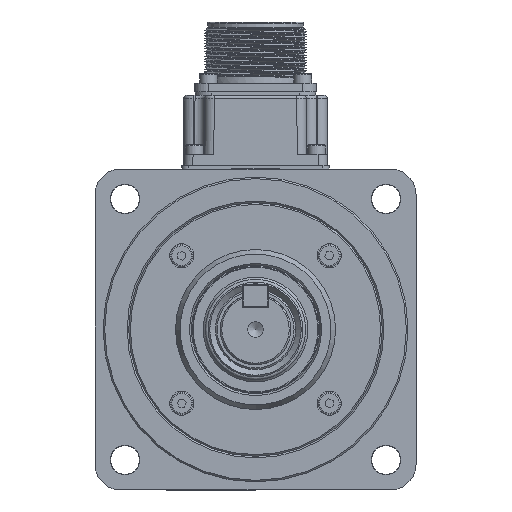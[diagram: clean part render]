
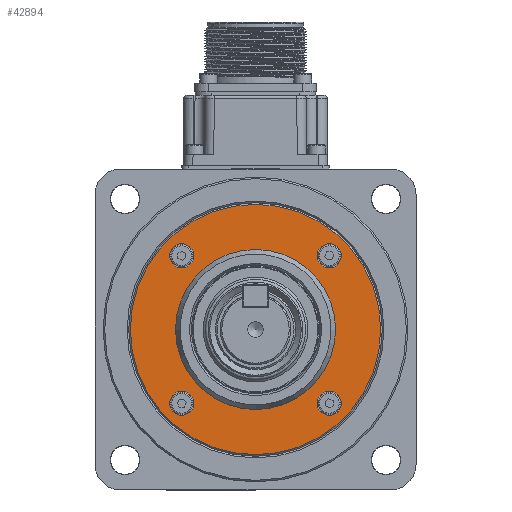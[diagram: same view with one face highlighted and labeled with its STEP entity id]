
A CAD part, left-side view. The second image highlights one B-rep face of the part: STEP entity #42894.
In plain terms, the highlighted planar face has unit normal (-1, 0, 0) as drawn and (0, -1, 0) by its records, which use the part's own axes.
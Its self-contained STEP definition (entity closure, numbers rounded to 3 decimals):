
#20484=ORIENTED_EDGE('',*,*,#26493,.T.);
#20485=ORIENTED_EDGE('',*,*,#26494,.T.);
#20486=ORIENTED_EDGE('',*,*,#26495,.T.);
#20487=ORIENTED_EDGE('',*,*,#26496,.T.);
#20488=ORIENTED_EDGE('',*,*,#26497,.T.);
#20489=ORIENTED_EDGE('',*,*,#26492,.F.);
#26492=EDGE_CURVE('',#30585,#30585,#32188,.T.);
#26493=EDGE_CURVE('',#30586,#30586,#32189,.T.);
#26494=EDGE_CURVE('',#30587,#30587,#32190,.F.);
#26495=EDGE_CURVE('',#30588,#30588,#32191,.F.);
#26496=EDGE_CURVE('',#30589,#30589,#32192,.F.);
#26497=EDGE_CURVE('',#30590,#30590,#32193,.F.);
#30585=VERTEX_POINT('',#90418);
#30586=VERTEX_POINT('',#90421);
#30587=VERTEX_POINT('',#90423);
#30588=VERTEX_POINT('',#90425);
#30589=VERTEX_POINT('',#90427);
#30590=VERTEX_POINT('',#90429);
#32188=CIRCLE('',#46910,24.943);
#32189=CIRCLE('',#46912,39.);
#32190=CIRCLE('',#46913,3.75);
#32191=CIRCLE('',#46914,3.75);
#32192=CIRCLE('',#46915,3.75);
#32193=CIRCLE('',#46916,3.75);
#35534=EDGE_LOOP('',(#20484));
#35535=EDGE_LOOP('',(#20485));
#35536=EDGE_LOOP('',(#20486));
#35537=EDGE_LOOP('',(#20487));
#35538=EDGE_LOOP('',(#20488));
#35539=EDGE_LOOP('',(#20489));
#39031=FACE_BOUND('',#35534,.T.);
#39032=FACE_BOUND('',#35535,.T.);
#39033=FACE_BOUND('',#35536,.T.);
#39034=FACE_BOUND('',#35537,.T.);
#39035=FACE_BOUND('',#35538,.T.);
#39036=FACE_BOUND('',#35539,.T.);
#40351=PLANE('',#46911);
#42894=ADVANCED_FACE('',(#39031,#39032,#39033,#39034,#39035,#39036),#40351,
 .T.);
#46910=AXIS2_PLACEMENT_3D('',#90417,#57816,#57817);
#46911=AXIS2_PLACEMENT_3D('',#90419,#57818,#57819);
#46912=AXIS2_PLACEMENT_3D('',#90420,#57820,#57821);
#46913=AXIS2_PLACEMENT_3D('',#90422,#57822,#57823);
#46914=AXIS2_PLACEMENT_3D('',#90424,#57824,#57825);
#46915=AXIS2_PLACEMENT_3D('',#90426,#57826,#57827);
#46916=AXIS2_PLACEMENT_3D('',#90428,#57828,#57829);
#57816=DIRECTION('',(0.,-1.,0.));
#57817=DIRECTION('',(0.,0.,-1.));
#57818=DIRECTION('',(0.,-1.,0.));
#57819=DIRECTION('',(0.,0.,-1.));
#57820=DIRECTION('',(0.,-1.,0.));
#57821=DIRECTION('',(0.,0.,-1.));
#57822=DIRECTION('',(0.,-1.,0.));
#57823=DIRECTION('',(0.,0.,-1.));
#57824=DIRECTION('',(0.,-1.,0.));
#57825=DIRECTION('',(0.,0.,-1.));
#57826=DIRECTION('',(0.,-1.,0.));
#57827=DIRECTION('',(0.,0.,-1.));
#57828=DIRECTION('',(0.,-1.,0.));
#57829=DIRECTION('',(0.,0.,-1.));
#90417=CARTESIAN_POINT('',(0.,0.5,0.));
#90418=CARTESIAN_POINT('',(0.,0.5,-24.943));
#90419=CARTESIAN_POINT('',(0.,0.5,39.5));
#90420=CARTESIAN_POINT('',(0.,0.5,0.));
#90421=CARTESIAN_POINT('',(0.,0.5,-39.));
#90422=CARTESIAN_POINT('',(-22.981,0.5,22.981));
#90423=CARTESIAN_POINT('',(-22.981,0.5,19.231));
#90424=CARTESIAN_POINT('',(22.981,0.5,22.981));
#90425=CARTESIAN_POINT('',(22.981,0.5,19.231));
#90426=CARTESIAN_POINT('',(22.981,0.5,-22.981));
#90427=CARTESIAN_POINT('',(22.981,0.5,-26.731));
#90428=CARTESIAN_POINT('',(-22.981,0.5,-22.981));
#90429=CARTESIAN_POINT('',(-22.981,0.5,-26.731));
